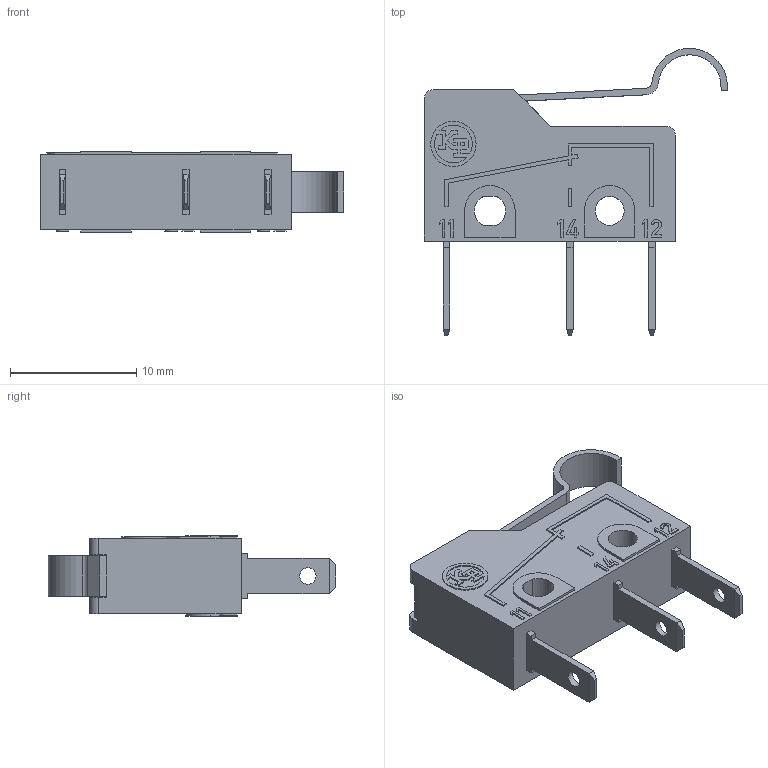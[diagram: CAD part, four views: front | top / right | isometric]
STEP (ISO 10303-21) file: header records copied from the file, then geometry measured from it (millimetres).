
FILE_DESCRIPTION(('Microrutor Subminiatura Alavanca c/ Roldana Simulada'),'2;1');
FILE_NAME('E:\WorkFolder\Bibl\3DWeb\kp_mm_mm$d1$f.stp','2011-12-13T08:59:45',('DIE'),('KAP'),'Autodesk Inventor 2011','Autodesk Inventor 2011','Direitos reservados. Proibido reproducao, cedencia ou revelacao de conteudo a terceiros, salvo com autorizacao.');
FILE_SCHEMA(('AUTOMOTIVE_DESIGN { 1 0 10303 214 1 1 1 1 }'));
Length unit declared in the file: millimetre
Products named in the file (1): Part4
Bounding box: 24.06 x 22.79 x 6.4 mm (x, y, z)
Volume: 1219 mm3; surface area: 1270.8 mm2
Topology: 1 solids, 1 shells, 288 faces, 777 edges, 513 vertices
Faces by surface type: plane 253, cylinder 35
Full cylindrical faces by diameter (mm): 1.3 x3, 2.3 x1, 3.6 x1
Entity records: 9222 total; most frequent: CARTESIAN_POINT 1573, ORIENTED_EDGE 1544, DIRECTION 1423, EDGE_CURVE 772, VECTOR 699, LINE 699, VERTEX_POINT 512, AXIS2_PLACEMENT_3D 362
